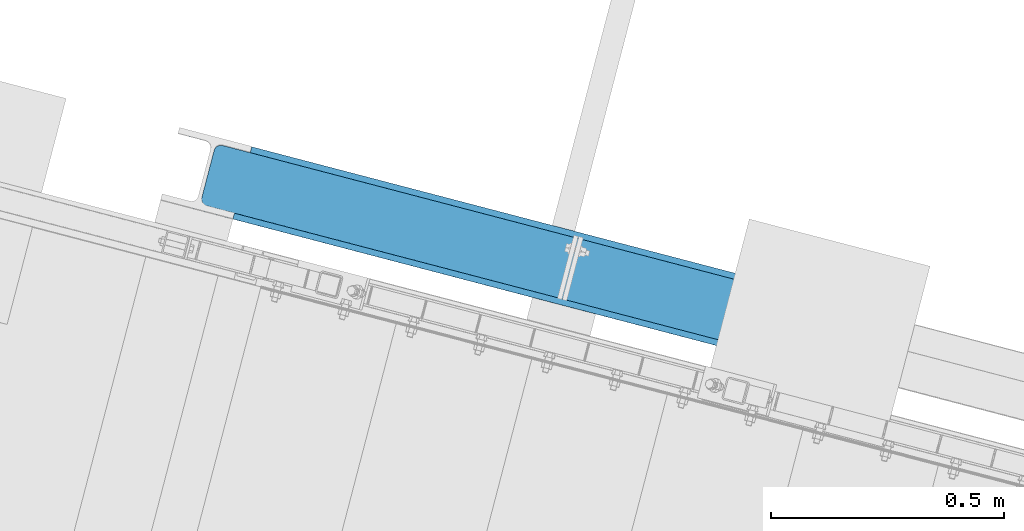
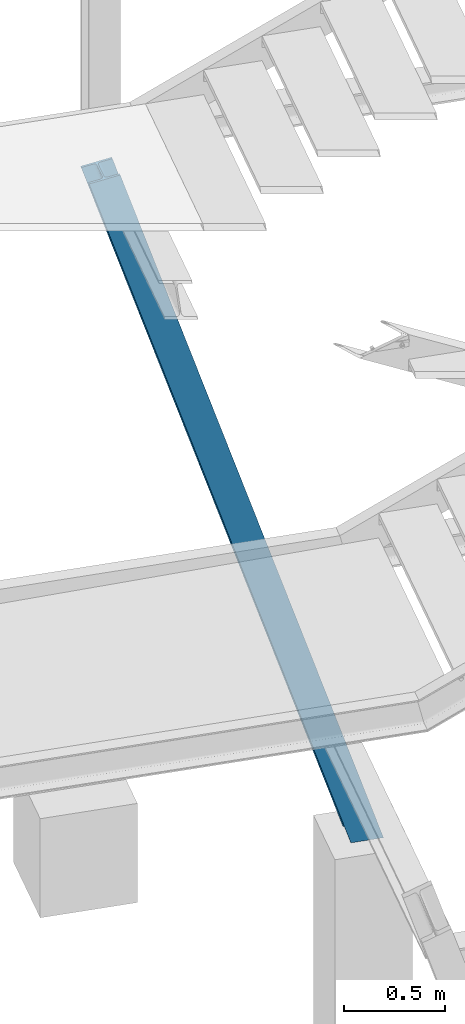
# One storey, part 44 of 169: 1 discrete accessory, 1 element without a shape of its own.
"""IFC2X3 building model written with IfcOpenShell, lengths in millimetres."""

import ifcopenshell
import ifcopenshell.guid

model = None  # the IFC model being written
_history = None  # IfcOwnerHistory: only IFC2X3 demands one
_inside = {}  # id of a spatial element -> (the spatial element, [elements in it])
_under = {}  # id of a project, library or spatial element -> (it, [spatial elements below it])
_declared = {}  # id of a project -> (the project, [libraries it declares])
_typed = {}  # id of a type object -> (the type object, [elements of that type])
_made_of = {}  # id of a material, layer set ... -> (it, [elements and type objects made of it])


def new_model(schema):
    """Start an empty IFC model of exactly this schema.

    Asked for "IFC4X3", IfcOpenShell would pick the latest addendum, in which some entities
    have other attributes; the version numbers below select the first issue.
    IFC2X3 requires an IfcOwnerHistory on every rooted entity: one is made here for all.
    """
    global model, _history
    if schema == "IFC4X3":
        model = ifcopenshell.file(schema_version=(4, 3, 0, 0))
    else:
        model = ifcopenshell.file(schema=schema)
    _inside.clear()
    _under.clear()
    _declared.clear()
    _typed.clear()
    _made_of.clear()
    _history = None
    if model.schema == "IFC2X3":
        org = make("IfcOrganization", Name="unknown")
        user = make(
            "IfcPersonAndOrganization",
            ThePerson=make("IfcPerson", FamilyName="unknown"),
            TheOrganization=org,
        )
        app = make(
            "IfcApplication",
            ApplicationDeveloper=org,
            Version="unknown",
            ApplicationFullName="unknown",
            ApplicationIdentifier="unknown",
        )
        _history = make(
            "IfcOwnerHistory",
            OwningUser=user,
            OwningApplication=app,
            ChangeAction="ADDED",
            CreationDate=0,
        )
    return model


def make(cls, **values):
    """One entity of the class cls with the attributes given. An attribute that is None is left unset."""
    return model.create_entity(
        cls, **{name: value for name, value in values.items() if value is not None}
    )


def rooted(cls, **values):
    """An entity with a GlobalId (a new one), such as an element, a storey or a relation."""
    return make(cls, GlobalId=ifcopenshell.guid.new(), OwnerHistory=_history, **values)


def si_unit(unit_type, name, prefix=None):
    """IfcSIUnit, for example si_unit("LENGTHUNIT", "METRE", prefix="MILLI")."""
    return make("IfcSIUnit", UnitType=unit_type, Prefix=prefix, Name=name)


def assignment(units):
    """IfcUnitAssignment: the units of a project."""
    return None if units is None else make("IfcUnitAssignment", Units=units)


def point(xyz):
    """IfcCartesianPoint."""
    return None if xyz is None else make("IfcCartesianPoint", Coordinates=xyz)


def direction(xyz):
    """IfcDirection."""
    return None if xyz is None else make("IfcDirection", DirectionRatios=xyz)


def frame(location, z_axis=None, x_axis=None):
    """IfcAxis2Placement3D, a coordinate frame: its origin and axes. An axis left out is left unset."""
    return make(
        "IfcAxis2Placement3D",
        Location=point(location),
        Axis=direction(z_axis),
        RefDirection=direction(x_axis),
    )


def frame_2d(location, x_axis=None):
    """IfcAxis2Placement2D, a coordinate frame in the plane: its origin and x axis."""
    return make(
        "IfcAxis2Placement2D", Location=point(location), RefDirection=direction(x_axis)
    )


def origin_with_axes():
    """The frame at (0, 0, 0) with the z axis (0, 0, 1) and the x axis (1, 0, 0) written out."""
    return frame((0.0, 0.0, 0.0), z_axis=(0.0, 0.0, 1.0), x_axis=(1.0, 0.0, 0.0))


def origin_2d_with_axis():
    """The frame at (0, 0) in the plane with the x axis (1, 0) written out."""
    return frame_2d((0.0, 0.0), x_axis=(1.0, 0.0))


def place(relative_to, where):
    """IfcLocalPlacement: puts the frame where relative to a parent placement (None: the world)."""
    return make(
        "IfcLocalPlacement", PlacementRelTo=relative_to, RelativePlacement=where
    )


def context(
    kind, dimensions, precision=None, world=None, true_north=None, identifier=None
):
    """IfcGeometricRepresentationContext, for example the 3D "Model" context."""
    return make(
        "IfcGeometricRepresentationContext",
        ContextIdentifier=identifier,
        ContextType=kind,
        CoordinateSpaceDimension=dimensions,
        Precision=precision,
        WorldCoordinateSystem=world,
        TrueNorth=true_north,
    )


def subcontext(parent, identifier, kind, view, scale=None):
    """IfcGeometricRepresentationSubContext, for example "Body" below "Model"."""
    return make(
        "IfcGeometricRepresentationSubContext",
        ContextIdentifier=identifier,
        ContextType=kind,
        ParentContext=parent,
        TargetScale=scale,
        TargetView=view,
    )


def project(units=None, contexts=None):
    """IfcProject with its units and contexts."""
    return rooted(
        "IfcProject",
        Name="project",
        RepresentationContexts=contexts,
        UnitsInContext=assignment(units),
    )


def spatial(cls, under=None, at=None, **own):
    """A site, building, storey or space (cls), placed at a placement, below another one or the project."""
    s = rooted(cls, ObjectPlacement=at, **own)
    if under is not None:
        _under.setdefault(under.id(), (under, []))[1].append(s)
    return s


def profile(cls, at=None, kind="AREA", **sizes):
    """A parametric profile (cls). Its sizes go by their IFC names, for example OverallWidth=200.0."""
    return make(cls, ProfileType=kind, Position=at, **sizes)


def i_section(**sizes):
    """IfcIShapeProfileDef."""
    return profile("IfcIShapeProfileDef", **sizes)


def extrude(swept, where, along, depth):
    """IfcExtrudedAreaSolid: the profile swept, set in the frame where, extruded along a direction by depth."""
    return make(
        "IfcExtrudedAreaSolid",
        SweptArea=swept,
        Position=where,
        ExtrudedDirection=direction(along),
        Depth=depth,
    )


def clip(a, b, op="DIFFERENCE"):
    """IfcBooleanClippingResult: the solid a cut by the half space b."""
    return make(
        "IfcBooleanClippingResult", Operator=op, FirstOperand=a, SecondOperand=b
    )


def halfspace(plane, agree):
    """IfcHalfSpaceSolid: all space on one side of the plane z = 0 of the frame plane."""
    return make(
        "IfcHalfSpaceSolid",
        BaseSurface=make("IfcPlane", Position=plane),
        AgreementFlag=agree,
    )


def shape(context_of_items, identifier, shape_type, items):
    """IfcShapeRepresentation: the items that make up one representation, for example the "Body"."""
    return make(
        "IfcShapeRepresentation",
        ContextOfItems=context_of_items,
        RepresentationIdentifier=identifier,
        RepresentationType=shape_type,
        Items=items,
    )


def material(Name=None, Category=None):
    """IfcMaterial."""
    return make("IfcMaterial", Name=Name, Category=Category)


def made_of(thing, what):
    """Note that an element or type object is made of a material, layer set ...; save() writes the relation."""
    if what is not None:
        _made_of.setdefault(what.id(), (what, []))[1].append(thing)
    return thing


def type_object(cls, material=None, **own):
    """A type object (cls), such as IfcWallType, which elements share."""
    return made_of(rooted(cls, **own), material)


def element(
    cls,
    number,
    at=None,
    inside=None,
    cuts=None,
    type_object=None,
    material=None,
    context=None,
    identifier="Body",
    shape_type=None,
    held_by="IfcProductDefinitionShape",
    body=None,
    shapes=None,
    **own,
):
    """One element of the class cls, such as IfcWall. Its Tag is "e" and its number.

    at: its placement. inside: the storey or other place that contains it. cuts: it is an
    opening in that element (IfcRelVoidsElement). A single representation is given by context,
    identifier, shape_type and body (its items); several are given by shapes. held_by: the class
    of the entity that holds the representations. save() writes the other relations.
    """
    e = rooted(cls, Tag="e%d" % number, ObjectPlacement=at, **own)
    if body is not None:
        shapes = [shape(context, identifier, shape_type, body)]
    if shapes is not None:
        e.Representation = make(held_by, Representations=shapes)
    if inside is not None:
        _inside.setdefault(inside.id(), (inside, []))[1].append(e)
    if cuts is not None:
        rooted(
            "IfcRelVoidsElement", RelatingBuildingElement=cuts, RelatedOpeningElement=e
        )
    if type_object is not None:
        _typed.setdefault(type_object.id(), (type_object, []))[1].append(e)
    return made_of(e, material)


def aggregate(whole, parts):
    """IfcRelAggregates: a whole, such as a stair, and the parts it consists of."""
    return rooted("IfcRelAggregates", RelatingObject=whole, RelatedObjects=parts)


def save(model, path):
    """Write the relations noted so far, then the file.

    IfcRelAggregates (storeys below a building ...), IfcRelContainedInSpatialStructure (elements
    in a storey), IfcRelDefinesByType, IfcRelAssociatesMaterial and IfcRelDeclares: one each for
    every whole, place, type object, material and project.
    """
    for whole, parts in _under.values():
        aggregate(whole, parts)
    for where, things in _inside.values():
        rooted(
            "IfcRelContainedInSpatialStructure",
            RelatedElements=things,
            RelatingStructure=where,
        )
    for kind, things in _typed.values():
        rooted("IfcRelDefinesByType", RelatedObjects=things, RelatingType=kind)
    for what, things in _made_of.values():
        rooted("IfcRelAssociatesMaterial", RelatedObjects=things, RelatingMaterial=what)
    for by, libraries in _declared.values():
        rooted("IfcRelDeclares", RelatingContext=by, RelatedDefinitions=libraries)
    model.write(path)


model = new_model("IFC2X3")

# Units and contexts
model_context = context("Model", 3, precision=1e-05, world=origin_with_axes())
body_context = subcontext(model_context, "Body", "Model", "MODEL_VIEW")
ifc_project = project(units=[si_unit("LENGTHUNIT", "METRE", prefix="MILLI"), si_unit("AREAUNIT", "SQUARE_METRE"), si_unit("VOLUMEUNIT", "CUBIC_METRE"), si_unit("MASSUNIT", "GRAM", prefix="KILO"), si_unit("TIMEUNIT", "SECOND"), si_unit("PLANEANGLEUNIT", "RADIAN"), si_unit("SOLIDANGLEUNIT", "STERADIAN"), si_unit("THERMODYNAMICTEMPERATUREUNIT", "DEGREE_CELSIUS"), si_unit("LUMINOUSINTENSITYUNIT", "LUMEN")], contexts=[model_context])

# Site, building, storey
site_placement = place(None, origin_with_axes())
site = spatial("IfcSite", under=ifc_project, at=site_placement, Name="Undefined", CompositionType="ELEMENT")
building_placement = place(site_placement, origin_with_axes())
building = spatial("IfcBuilding", under=site, at=building_placement, Name="Undefined", CompositionType="ELEMENT")
storey_placement = place(building_placement, origin_with_axes())
storey = spatial("IfcBuildingStorey", under=building, at=storey_placement, Name="Undefined", CompositionType="ELEMENT", Elevation=0.0)

# Assembly, discrete accessory
assembly_placement = place(storey_placement, origin_with_axes())
assembly = element("IfcElementAssembly", 1, at=assembly_placement, inside=storey, Name="Steel Assembly", AssemblyPlace="NOTDEFINED", PredefinedType="RIGID_FRAME")
ifc_material = material(Name="STEEL/S235")
discrete_accessory_type = type_object("IfcDiscreteAccessoryType", Name="COLUMN")
discrete_accessory_placement = place(assembly_placement, frame((-27683.5822358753, 9006.11752574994, 5269.97201499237), z_axis=(-0.252628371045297, -0.967563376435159, 0.000136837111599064), x_axis=(0.292887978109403, -0.0766071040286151, -0.953072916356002)))
discrete_accessory = element("IfcDiscreteAccessory", 2, at=discrete_accessory_placement, type_object=discrete_accessory_type, material=ifc_material, Name="COLUMN", ObjectType="HEB160", context=body_context, shape_type="Clipping", body=[
    clip(clip(extrude(i_section(OverallWidth=160.0, OverallDepth=160.0, WebThickness=8.0, FlangeThickness=13.0, FilletRadius=15.0, at=origin_2d_with_axis()), frame((4545.28052968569, -2.52313754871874e-13, 9.15038705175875e-13), z_axis=(-1.0, -3.46944695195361e-18, -1.38777878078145e-17), x_axis=(1.73472347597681e-18, -1.0, 0.0)), (0.0, 0.0, 1.0), 4631.3), halfspace(frame((4461.18332354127, 6.05481826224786, 1000.00000024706), z_axis=(-0.953072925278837, 0.302740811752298, -2.23275332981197e-10), x_axis=(-0.302740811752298, -0.953072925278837, 5.20191860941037e-10)), True)), halfspace(frame((12.4005943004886, 80.0000001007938, 5.93111053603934e-08), z_axis=(-0.988198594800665, 0.153178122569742, -3.79816911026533e-10), x_axis=(0.0, 0.0, 1.0)), False)),
])
aggregate(assembly, [discrete_accessory])

save(model, "model.ifc")
